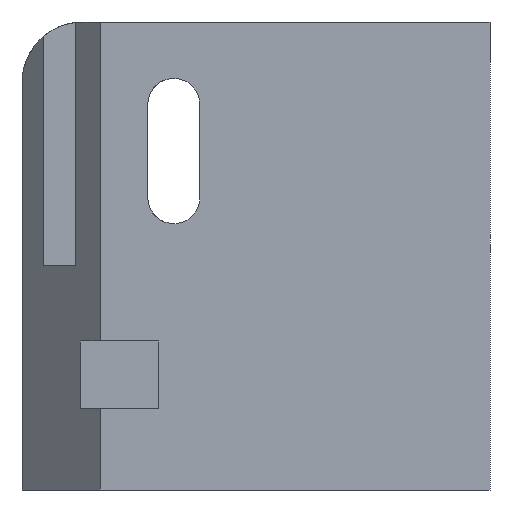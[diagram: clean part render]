
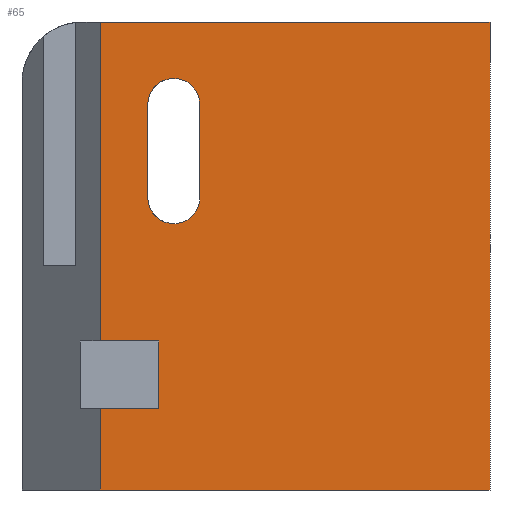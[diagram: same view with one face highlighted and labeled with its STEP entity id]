
A CAD part, front view. The second image highlights one B-rep face of the part: STEP entity #65.
In plain terms, the highlighted planar face has unit normal (0, -1, 0).
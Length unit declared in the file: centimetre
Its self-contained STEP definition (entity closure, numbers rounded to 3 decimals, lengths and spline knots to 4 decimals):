
#9 = VERTEX_POINT ( 'NONE', #99 ) ;
#24 = LINE ( 'NONE', #126, #362 ) ;
#40 = ORIENTED_EDGE ( 'NONE', *, *, #1010, .T. ) ;
#41 = DIRECTION ( 'NONE',  ( 0., 1., 0. ) ) ;
#45 = EDGE_CURVE ( 'NONE', #405, #67, #531, .T. ) ;
#47 = DIRECTION ( 'NONE',  ( 0., 1., 0. ) ) ;
#57 = DIRECTION ( 'NONE',  ( 0., 0., -1. ) ) ;
#60 = LINE ( 'NONE', #1092, #754 ) ;
#65 = ADVANCED_FACE ( 'NONE', ( #112, #1229 ), #1040, .F. ) ;
#67 = VERTEX_POINT ( 'NONE', #525 ) ;
#89 = CARTESIAN_POINT ( 'NONE',  ( 1000., 0., 0. ) ) ;
#94 = VECTOR ( 'NONE', #638, 100. ) ;
#99 = CARTESIAN_POINT ( 'NONE',  ( 167.4591, 0., 318.3868 ) ) ;
#112 = FACE_BOUND ( 'NONE', #316, .T. ) ;
#126 = CARTESIAN_POINT ( 'NONE',  ( 124.8453, 0., 173.5815 ) ) ;
#133 = AXIS2_PLACEMENT_3D ( 'NONE', #884, #41, #371 ) ;
#183 = CIRCLE ( 'NONE', #1208, 55.6594 ) ;
#185 = VECTOR ( 'NONE', #1200, 100. ) ;
#193 = DIRECTION ( 'NONE',  ( 0., 0., 1. ) ) ;
#218 = DIRECTION ( 'NONE',  ( 0., 1., 0. ) ) ;
#221 = CARTESIAN_POINT ( 'NONE',  ( 324.3521, 0., 879.3659 ) ) ;
#222 = CIRCLE ( 'NONE', #987, 55.6594 ) ;
#256 = EDGE_CURVE ( 'NONE', #291, #891, #60, .T. ) ;
#257 = DIRECTION ( 'NONE',  ( 0., 0., -1. ) ) ;
#261 = ORIENTED_EDGE ( 'NONE', *, *, #748, .T. ) ;
#269 = VERTEX_POINT ( 'NONE', #990 ) ;
#270 = DIRECTION ( 'NONE',  ( -1., 0., 0. ) ) ;
#288 = ORIENTED_EDGE ( 'NONE', *, *, #293, .T. ) ;
#291 = VERTEX_POINT ( 'NONE', #1205 ) ;
#293 = EDGE_CURVE ( 'NONE', #1325, #388, #731, .T. ) ;
#296 = VECTOR ( 'NONE', #1268, 100. ) ;
#316 = EDGE_LOOP ( 'NONE', ( #261, #1124, #357, #473, #288 ) ) ;
#355 = CARTESIAN_POINT ( 'NONE',  ( 167.4591, 0., 1000. ) ) ;
#357 = ORIENTED_EDGE ( 'NONE', *, *, #958, .T. ) ;
#362 = VECTOR ( 'NONE', #872, 100. ) ;
#371 = DIRECTION ( 'NONE',  ( 0., 0., 1. ) ) ;
#372 = CARTESIAN_POINT ( 'NONE',  ( 291.8277, 0., 318.3868 ) ) ;
#387 = LINE ( 'NONE', #808, #185 ) ;
#388 = VERTEX_POINT ( 'NONE', #880 ) ;
#394 = CARTESIAN_POINT ( 'NONE',  ( 324.3521, 0., 823.7065 ) ) ;
#403 = VECTOR ( 'NONE', #946, 100. ) ;
#405 = VERTEX_POINT ( 'NONE', #355 ) ;
#419 = CARTESIAN_POINT ( 'NONE',  ( 167.4591, 0., 1000. ) ) ;
#436 = EDGE_CURVE ( 'NONE', #649, #1325, #222, .T. ) ;
#441 = EDGE_CURVE ( 'NONE', #67, #612, #613, .T. ) ;
#445 = ORIENTED_EDGE ( 'NONE', *, *, #256, .F. ) ;
#469 = CARTESIAN_POINT ( 'NONE',  ( 1000., 0., 1000. ) ) ;
#473 = ORIENTED_EDGE ( 'NONE', *, *, #436, .T. ) ;
#483 = EDGE_LOOP ( 'NONE', ( #678, #1337, #445, #818, #40, #769, #1132, #849 ) ) ;
#486 = LINE ( 'NONE', #904, #887 ) ;
#488 = AXIS2_PLACEMENT_3D ( 'NONE', #1140, #218, #644 ) ;
#500 = VERTEX_POINT ( 'NONE', #1340 ) ;
#505 = EDGE_CURVE ( 'NONE', #891, #9, #801, .T. ) ;
#525 = CARTESIAN_POINT ( 'NONE',  ( 1000., 0., 1000. ) ) ;
#531 = LINE ( 'NONE', #1247, #403 ) ;
#590 = EDGE_CURVE ( 'NONE', #269, #916, #183, .T. ) ;
#593 = CARTESIAN_POINT ( 'NONE',  ( 167.4591, 0., 0. ) ) ;
#612 = VERTEX_POINT ( 'NONE', #89 ) ;
#613 = LINE ( 'NONE', #469, #1159 ) ;
#638 = DIRECTION ( 'NONE',  ( 0., 0., -1. ) ) ;
#644 = DIRECTION ( 'NONE',  ( 0., 0., 1. ) ) ;
#649 = VERTEX_POINT ( 'NONE', #942 ) ;
#671 = DIRECTION ( 'NONE',  ( 0., 0., 1. ) ) ;
#672 = VECTOR ( 'NONE', #257, 100. ) ;
#678 = ORIENTED_EDGE ( 'NONE', *, *, #729, .T. ) ;
#729 = EDGE_CURVE ( 'NONE', #405, #9, #1351, .T. ) ;
#731 = CIRCLE ( 'NONE', #133, 55.6594 ) ;
#748 = EDGE_CURVE ( 'NONE', #388, #269, #856, .T. ) ;
#754 = VECTOR ( 'NONE', #1307, 100. ) ;
#769 = ORIENTED_EDGE ( 'NONE', *, *, #1147, .T. ) ;
#789 = EDGE_CURVE ( 'NONE', #500, #291, #24, .T. ) ;
#801 = LINE ( 'NONE', #1211, #1096 ) ;
#808 = CARTESIAN_POINT ( 'NONE',  ( 268.6927, 0., 624.7089 ) ) ;
#818 = ORIENTED_EDGE ( 'NONE', *, *, #789, .F. ) ;
#849 = ORIENTED_EDGE ( 'NONE', *, *, #45, .F. ) ;
#856 = LINE ( 'NONE', #991, #296 ) ;
#872 = DIRECTION ( 'NONE',  ( 1., 0., 0. ) ) ;
#880 = CARTESIAN_POINT ( 'NONE',  ( 380.0115, 0., 823.7065 ) ) ;
#884 = CARTESIAN_POINT ( 'NONE',  ( 324.3521, 0., 823.7065 ) ) ;
#887 = VECTOR ( 'NONE', #1313, 100. ) ;
#891 = VERTEX_POINT ( 'NONE', #372 ) ;
#904 = CARTESIAN_POINT ( 'NONE',  ( 0., 0., 0. ) ) ;
#911 = DIRECTION ( 'NONE',  ( 0., 1., 0. ) ) ;
#916 = VERTEX_POINT ( 'NONE', #1216 ) ;
#942 = CARTESIAN_POINT ( 'NONE',  ( 268.6927, 0., 823.7065 ) ) ;
#946 = DIRECTION ( 'NONE',  ( 1., 0., 0. ) ) ;
#958 = EDGE_CURVE ( 'NONE', #916, #649, #387, .T. ) ;
#987 = AXIS2_PLACEMENT_3D ( 'NONE', #394, #47, #671 ) ;
#990 = CARTESIAN_POINT ( 'NONE',  ( 380.0115, 0., 624.7089 ) ) ;
#991 = CARTESIAN_POINT ( 'NONE',  ( 380.0115, 0., 823.7065 ) ) ;
#996 = CARTESIAN_POINT ( 'NONE',  ( 167.4591, 0., 1000. ) ) ;
#1010 = EDGE_CURVE ( 'NONE', #500, #1108, #1168, .T. ) ;
#1040 = PLANE ( 'NONE',  #488 ) ;
#1092 = CARTESIAN_POINT ( 'NONE',  ( 291.8277, 0., 173.5815 ) ) ;
#1096 = VECTOR ( 'NONE', #270, 100. ) ;
#1108 = VERTEX_POINT ( 'NONE', #593 ) ;
#1120 = CARTESIAN_POINT ( 'NONE',  ( 324.3521, 0., 624.7089 ) ) ;
#1124 = ORIENTED_EDGE ( 'NONE', *, *, #590, .T. ) ;
#1132 = ORIENTED_EDGE ( 'NONE', *, *, #441, .F. ) ;
#1140 = CARTESIAN_POINT ( 'NONE',  ( 0., 0., 1000. ) ) ;
#1147 = EDGE_CURVE ( 'NONE', #1108, #612, #486, .T. ) ;
#1159 = VECTOR ( 'NONE', #57, 100. ) ;
#1168 = LINE ( 'NONE', #996, #672 ) ;
#1200 = DIRECTION ( 'NONE',  ( 0., 0., 1. ) ) ;
#1205 = CARTESIAN_POINT ( 'NONE',  ( 291.8277, 0., 173.5815 ) ) ;
#1208 = AXIS2_PLACEMENT_3D ( 'NONE', #1120, #911, #193 ) ;
#1211 = CARTESIAN_POINT ( 'NONE',  ( 124.8453, 0., 318.3868 ) ) ;
#1216 = CARTESIAN_POINT ( 'NONE',  ( 268.6927, 0., 624.7089 ) ) ;
#1229 = FACE_OUTER_BOUND ( 'NONE', #483, .T. ) ;
#1247 = CARTESIAN_POINT ( 'NONE',  ( 0., 0., 1000. ) ) ;
#1268 = DIRECTION ( 'NONE',  ( 0., 0., -1. ) ) ;
#1307 = DIRECTION ( 'NONE',  ( 0., 0., 1. ) ) ;
#1313 = DIRECTION ( 'NONE',  ( 1., 0., 0. ) ) ;
#1325 = VERTEX_POINT ( 'NONE', #221 ) ;
#1337 = ORIENTED_EDGE ( 'NONE', *, *, #505, .F. ) ;
#1340 = CARTESIAN_POINT ( 'NONE',  ( 167.4591, 0., 173.5815 ) ) ;
#1351 = LINE ( 'NONE', #419, #94 ) ;
